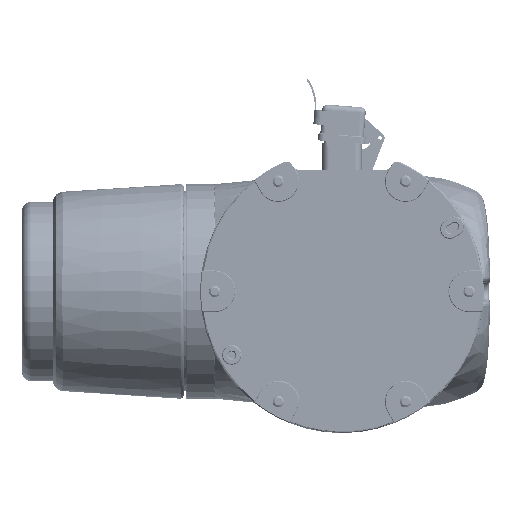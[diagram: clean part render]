
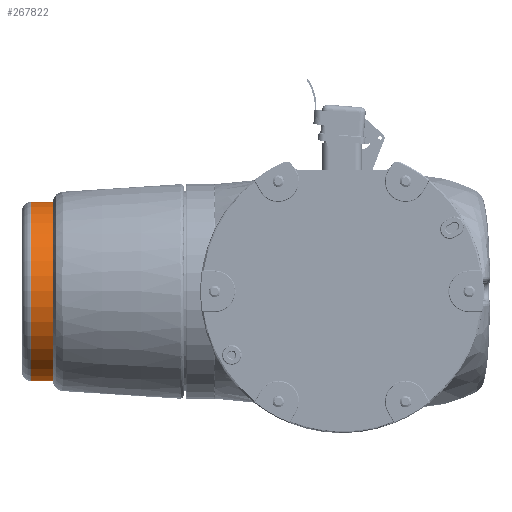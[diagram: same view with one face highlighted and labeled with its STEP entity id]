
A CAD part, front view. The second image highlights one B-rep face of the part: STEP entity #267822.
In plain terms, the highlighted cylindrical face has radius 49.25 mm (diameter 98.5 mm), a partial arc.
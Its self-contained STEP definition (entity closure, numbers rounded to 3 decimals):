
#13828 = AXIS2_PLACEMENT_3D ( 'NONE', #148587, #277899, #21321 ) ;
#17452 = EDGE_CURVE ( 'NONE', #404570, #416132, #81814, .T. ) ;
#21321 = DIRECTION ( 'NONE',  ( 0., 0., -1. ) ) ;
#45672 = EDGE_LOOP ( 'NONE', ( #318504, #55520, #256067, #366025 ) ) ;
#50309 = CARTESIAN_POINT ( 'NONE',  ( -20., 0., 49.25 ) ) ;
#55520 = ORIENTED_EDGE ( 'NONE', *, *, #284938, .T. ) ;
#77969 = LINE ( 'NONE', #50309, #319710 ) ;
#81814 = CIRCLE ( 'NONE', #311812, 49.25 ) ;
#96152 = FACE_OUTER_BOUND ( 'NONE', #45672, .T. ) ;
#102389 = CARTESIAN_POINT ( 'NONE',  ( -20., 0., 0. ) ) ;
#148587 = CARTESIAN_POINT ( 'NONE',  ( -15., 0., 0. ) ) ;
#151876 = AXIS2_PLACEMENT_3D ( 'NONE', #102389, #327131, #168085 ) ;
#154551 = CARTESIAN_POINT ( 'NONE',  ( -20., 0., -49.25 ) ) ;
#168085 = DIRECTION ( 'NONE',  ( 0., 0., -1. ) ) ;
#169638 = CARTESIAN_POINT ( 'NONE',  ( -15., 0., -49.25 ) ) ;
#214666 = EDGE_CURVE ( 'NONE', #295343, #416132, #381409, .T. ) ;
#232780 = CARTESIAN_POINT ( 'NONE',  ( -0.5, 0., 0. ) ) ;
#250039 = DIRECTION ( 'NONE',  ( 1., 0., 0. ) ) ;
#256067 = ORIENTED_EDGE ( 'NONE', *, *, #17452, .T. ) ;
#256772 = VERTEX_POINT ( 'NONE', #342078 ) ;
#267822 = ADVANCED_FACE ( 'NONE', ( #96152 ), #380888, .T. ) ;
#268730 = DIRECTION ( 'NONE',  ( -1., 0., 0. ) ) ;
#271447 = CIRCLE ( 'NONE', #13828, 49.25 ) ;
#277899 = DIRECTION ( 'NONE',  ( 1., 0., 0. ) ) ;
#281305 = DIRECTION ( 'NONE',  ( 1., 0., 0. ) ) ;
#284938 = EDGE_CURVE ( 'NONE', #256772, #404570, #77969, .T. ) ;
#292117 = VECTOR ( 'NONE', #250039, 1000. ) ;
#295343 = VERTEX_POINT ( 'NONE', #169638 ) ;
#310891 = CARTESIAN_POINT ( 'NONE',  ( -0.5, 0., -49.25 ) ) ;
#311812 = AXIS2_PLACEMENT_3D ( 'NONE', #232780, #268730, #398043 ) ;
#318504 = ORIENTED_EDGE ( 'NONE', *, *, #361449, .T. ) ;
#319710 = VECTOR ( 'NONE', #281305, 1000. ) ;
#327131 = DIRECTION ( 'NONE',  ( 1., 0., 0. ) ) ;
#342078 = CARTESIAN_POINT ( 'NONE',  ( -15., 0., 49.25 ) ) ;
#361449 = EDGE_CURVE ( 'NONE', #295343, #256772, #271447, .T. ) ;
#366025 = ORIENTED_EDGE ( 'NONE', *, *, #214666, .F. ) ;
#380888 = CYLINDRICAL_SURFACE ( 'NONE', #151876, 49.25 ) ;
#381409 = LINE ( 'NONE', #154551, #292117 ) ;
#398043 = DIRECTION ( 'NONE',  ( 0., 0., -1. ) ) ;
#404570 = VERTEX_POINT ( 'NONE', #406077 ) ;
#406077 = CARTESIAN_POINT ( 'NONE',  ( -0.5, 0., 49.25 ) ) ;
#416132 = VERTEX_POINT ( 'NONE', #310891 ) ;
